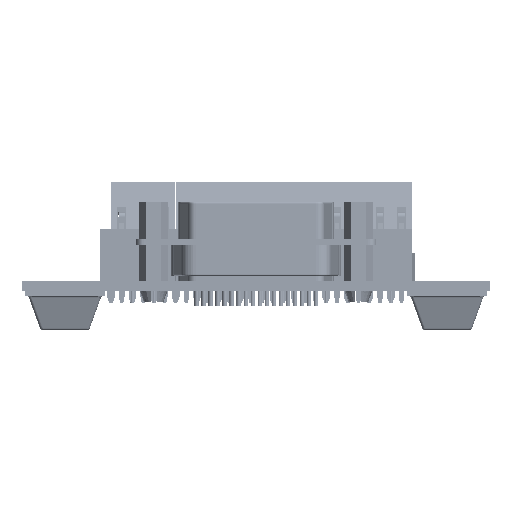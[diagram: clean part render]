
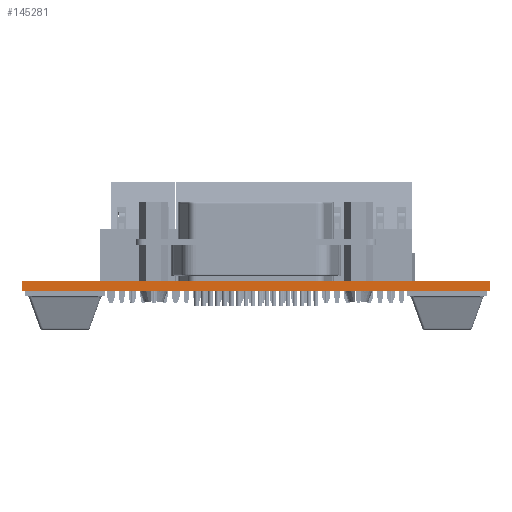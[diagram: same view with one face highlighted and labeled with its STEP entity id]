
A CAD part, left-side view. The second image highlights one B-rep face of the part: STEP entity #145281.
In plain terms, the highlighted planar face has unit normal (-1, 0, 0).
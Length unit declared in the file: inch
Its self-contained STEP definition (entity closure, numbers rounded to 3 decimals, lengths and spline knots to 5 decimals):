
#9 = EDGE_CURVE ( 'NONE', #78048, #92664, #80024, .T. ) ;
#560 = ORIENTED_EDGE ( 'NONE', *, *, #171712, .T. ) ;
#16358 = CARTESIAN_POINT ( 'NONE',  ( 25.15, 0., 0. ) ) ;
#16975 = DIRECTION ( 'NONE',  ( 0., 0., 1. ) ) ;
#17828 = DIRECTION ( 'NONE',  ( 0., 1., 0. ) ) ;
#20045 = CARTESIAN_POINT ( 'NONE',  ( 25.15, 17.89, 0. ) ) ;
#25085 = EDGE_LOOP ( 'NONE', ( #49754, #167034, #135401, #560 ) ) ;
#28691 = VECTOR ( 'NONE', #244540, 39.37008 ) ;
#29512 = VECTOR ( 'NONE', #91973, 39.37008 ) ;
#30438 = FACE_OUTER_BOUND ( 'NONE', #25085, .T. ) ;
#49754 = ORIENTED_EDGE ( 'NONE', *, *, #71726, .F. ) ;
#54695 = EDGE_CURVE ( 'NONE', #78048, #152260, #102269, .T. ) ;
#54736 = CARTESIAN_POINT ( 'NONE',  ( 25.15, 0., 0.0625 ) ) ;
#62724 = VERTEX_POINT ( 'NONE', #20045 ) ;
#71320 = CARTESIAN_POINT ( 'NONE',  ( 25.15, 14.89, 0.0625 ) ) ;
#71726 = EDGE_CURVE ( 'NONE', #152260, #62724, #82569, .T. ) ;
#75507 = LINE ( 'NONE', #189174, #28691 ) ;
#78048 = VERTEX_POINT ( 'NONE', #71320 ) ;
#80024 = LINE ( 'NONE', #54736, #168345 ) ;
#82569 = LINE ( 'NONE', #16358, #29512 ) ;
#91973 = DIRECTION ( 'NONE',  ( 0., 1., 0. ) ) ;
#92664 = VERTEX_POINT ( 'NONE', #149727 ) ;
#102269 = LINE ( 'NONE', #185038, #205292 ) ;
#107654 = DIRECTION ( 'NONE',  ( 0., 0., -1. ) ) ;
#125281 = AXIS2_PLACEMENT_3D ( 'NONE', #128000, #128809, #16975 ) ;
#126483 = CARTESIAN_POINT ( 'NONE',  ( 25.15, 14.89, 0. ) ) ;
#128000 = CARTESIAN_POINT ( 'NONE',  ( 25.15, 0., 0.0625 ) ) ;
#128809 = DIRECTION ( 'NONE',  ( -1., 0., 0. ) ) ;
#135401 = ORIENTED_EDGE ( 'NONE', *, *, #9, .T. ) ;
#145281 = ADVANCED_FACE ( 'NONE', ( #30438 ), #222038, .T. ) ;
#149727 = CARTESIAN_POINT ( 'NONE',  ( 25.15, 17.89, 0.0625 ) ) ;
#152260 = VERTEX_POINT ( 'NONE', #126483 ) ;
#167034 = ORIENTED_EDGE ( 'NONE', *, *, #54695, .F. ) ;
#168345 = VECTOR ( 'NONE', #17828, 39.37008 ) ;
#171712 = EDGE_CURVE ( 'NONE', #92664, #62724, #75507, .T. ) ;
#185038 = CARTESIAN_POINT ( 'NONE',  ( 25.15, 14.89, 0.0625 ) ) ;
#189174 = CARTESIAN_POINT ( 'NONE',  ( 25.15, 17.89, 0.0625 ) ) ;
#205292 = VECTOR ( 'NONE', #107654, 39.37008 ) ;
#222038 = PLANE ( 'NONE',  #125281 ) ;
#244540 = DIRECTION ( 'NONE',  ( 0., 0., -1. ) ) ;
